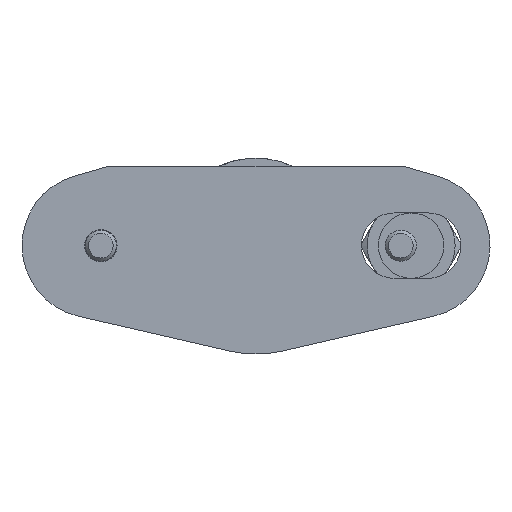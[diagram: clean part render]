
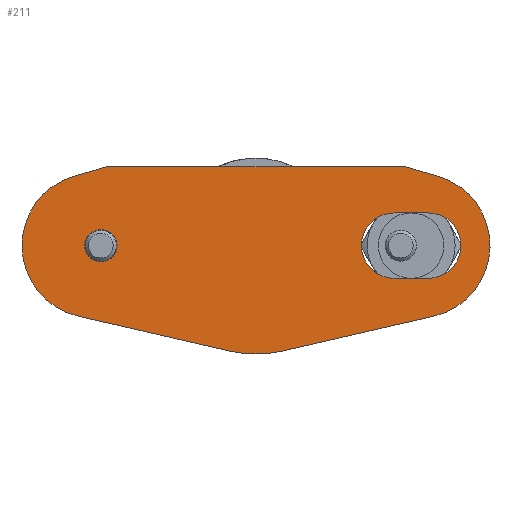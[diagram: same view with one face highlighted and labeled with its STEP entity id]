
A CAD part, front view. The second image highlights one B-rep face of the part: STEP entity #211.
In plain terms, the highlighted planar face has unit normal (0, -1, 0).
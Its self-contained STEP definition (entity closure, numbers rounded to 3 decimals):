
#211 = ADVANCED_FACE( '', ( #314, #315, #316 ), #317, .F. );
#314 = FACE_BOUND( '', #556, .T. );
#315 = FACE_BOUND( '', #557, .T. );
#316 = FACE_OUTER_BOUND( '', #558, .T. );
#317 = PLANE( '', #559 );
#556 = EDGE_LOOP( '', ( #790 ) );
#557 = EDGE_LOOP( '', ( #791, #792, #793, #794 ) );
#558 = EDGE_LOOP( '', ( #795, #796, #797, #798, #799, #800, #801, #802 ) );
#559 = AXIS2_PLACEMENT_3D( '', #803, #804, #805 );
#790 = ORIENTED_EDGE( '', *, *, #1420, .T. );
#791 = ORIENTED_EDGE( '', *, *, #1421, .T. );
#792 = ORIENTED_EDGE( '', *, *, #1422, .T. );
#793 = ORIENTED_EDGE( '', *, *, #1423, .T. );
#794 = ORIENTED_EDGE( '', *, *, #1424, .T. );
#795 = ORIENTED_EDGE( '', *, *, #1425, .F. );
#796 = ORIENTED_EDGE( '', *, *, #1426, .F. );
#797 = ORIENTED_EDGE( '', *, *, #1427, .F. );
#798 = ORIENTED_EDGE( '', *, *, #1428, .F. );
#799 = ORIENTED_EDGE( '', *, *, #1429, .F. );
#800 = ORIENTED_EDGE( '', *, *, #1430, .F. );
#801 = ORIENTED_EDGE( '', *, *, #1431, .F. );
#802 = ORIENTED_EDGE( '', *, *, #1432, .F. );
#803 = CARTESIAN_POINT( '', ( -31.25, 0., 0. ) );
#804 = DIRECTION( '', ( 0., 1., 0. ) );
#805 = DIRECTION( '', ( 0., 0., 1. ) );
#1420 = EDGE_CURVE( '', #1636, #1636, #1637, .T. );
#1421 = EDGE_CURVE( '', #1638, #1639, #1640, .T. );
#1422 = EDGE_CURVE( '', #1639, #1641, #1642, .T. );
#1423 = EDGE_CURVE( '', #1641, #1643, #1644, .T. );
#1424 = EDGE_CURVE( '', #1643, #1638, #1645, .T. );
#1425 = EDGE_CURVE( '', #1646, #1647, #1648, .T. );
#1426 = EDGE_CURVE( '', #1649, #1646, #1650, .T. );
#1427 = EDGE_CURVE( '', #1651, #1649, #1652, .T. );
#1428 = EDGE_CURVE( '', #1653, #1651, #1654, .T. );
#1429 = EDGE_CURVE( '', #1655, #1653, #1656, .T. );
#1430 = EDGE_CURVE( '', #1657, #1655, #1658, .T. );
#1431 = EDGE_CURVE( '', #1659, #1657, #1660, .T. );
#1432 = EDGE_CURVE( '', #1647, #1659, #1661, .T. );
#1636 = VERTEX_POINT( '', #1974 );
#1637 = CIRCLE( '', #1975, 3.125 );
#1638 = VERTEX_POINT( '', #1976 );
#1639 = VERTEX_POINT( '', #1977 );
#1640 = LINE( '', #1978, #1979 );
#1641 = VERTEX_POINT( '', #1980 );
#1642 = CIRCLE( '', #1981, 6.325 );
#1643 = VERTEX_POINT( '', #1982 );
#1644 = LINE( '', #1983, #1984 );
#1645 = CIRCLE( '', #1985, 6.325 );
#1646 = VERTEX_POINT( '', #1986 );
#1647 = VERTEX_POINT( '', #1987 );
#1648 = LINE( '', #1988, #1989 );
#1649 = VERTEX_POINT( '', #1990 );
#1650 = CIRCLE( '', #1991, 21. );
#1651 = VERTEX_POINT( '', #1992 );
#1652 = LINE( '', #1993, #1994 );
#1653 = VERTEX_POINT( '', #1995 );
#1654 = CIRCLE( '', #1996, 14. );
#1655 = VERTEX_POINT( '', #1997 );
#1656 = LINE( '', #1998, #1999 );
#1657 = VERTEX_POINT( '', #2000 );
#1658 = LINE( '', #2001, #2002 );
#1659 = VERTEX_POINT( '', #2003 );
#1660 = LINE( '', #2004, #2005 );
#1661 = CIRCLE( '', #2006, 14. );
#1974 = CARTESIAN_POINT( '', ( -26.875, 0., 0. ) );
#1975 = AXIS2_PLACEMENT_3D( '', #2552, #2553, #2554 );
#1976 = CARTESIAN_POINT( '', ( 33.3, 0., -6.325 ) );
#1977 = CARTESIAN_POINT( '', ( 26.7, 0., -6.325 ) );
#1978 = CARTESIAN_POINT( '', ( 33.3, 0., -6.325 ) );
#1979 = VECTOR( '', #2555, 1000. );
#1980 = CARTESIAN_POINT( '', ( 26.7, 0., 6.325 ) );
#1981 = AXIS2_PLACEMENT_3D( '', #2556, #2557, #2558 );
#1982 = CARTESIAN_POINT( '', ( 33.3, 0., 6.325 ) );
#1983 = CARTESIAN_POINT( '', ( 26.7, 0., 6.325 ) );
#1984 = VECTOR( '', #2559, 1000. );
#1985 = AXIS2_PLACEMENT_3D( '', #2560, #2561, #2562 );
#1986 = CARTESIAN_POINT( '', ( -4.704, 0., -20.466 ) );
#1987 = CARTESIAN_POINT( '', ( -34.386, 0., -13.644 ) );
#1988 = CARTESIAN_POINT( '', ( -4.704, 0., -20.466 ) );
#1989 = VECTOR( '', #2563, 1000. );
#1990 = CARTESIAN_POINT( '', ( 4.704, 0., -20.466 ) );
#1991 = AXIS2_PLACEMENT_3D( '', #2564, #2565, #2566 );
#1992 = CARTESIAN_POINT( '', ( 34.386, 0., -13.644 ) );
#1993 = CARTESIAN_POINT( '', ( 34.386, 0., -13.644 ) );
#1994 = VECTOR( '', #2567, 1000. );
#1995 = CARTESIAN_POINT( '', ( 35.109, 0., 13.458 ) );
#1996 = AXIS2_PLACEMENT_3D( '', #2568, #2569, #2570 );
#1997 = CARTESIAN_POINT( '', ( 28.684, 0., 15.3 ) );
#1998 = CARTESIAN_POINT( '', ( 28.684, 0., 15.3 ) );
#1999 = VECTOR( '', #2571, 1000. );
#2000 = CARTESIAN_POINT( '', ( -28.684, 0., 15.3 ) );
#2001 = CARTESIAN_POINT( '', ( -28.684, 0., 15.3 ) );
#2002 = VECTOR( '', #2572, 1000. );
#2003 = CARTESIAN_POINT( '', ( -35.109, 0., 13.458 ) );
#2004 = CARTESIAN_POINT( '', ( -35.109, 0., 13.458 ) );
#2005 = VECTOR( '', #2573, 1000. );
#2006 = AXIS2_PLACEMENT_3D( '', #2574, #2575, #2576 );
#2552 = CARTESIAN_POINT( '', ( -30., 0., 0. ) );
#2553 = DIRECTION( '', ( 0., 1., 0. ) );
#2554 = DIRECTION( '', ( 1., 0., 0. ) );
#2555 = DIRECTION( '', ( -1., 0., 0. ) );
#2556 = CARTESIAN_POINT( '', ( 26.7, 0., 0. ) );
#2557 = DIRECTION( '', ( 0., 1., 0. ) );
#2558 = DIRECTION( '', ( 1., 0., 0. ) );
#2559 = DIRECTION( '', ( 1., 0., 0. ) );
#2560 = CARTESIAN_POINT( '', ( 33.3, 0., 0. ) );
#2561 = DIRECTION( '', ( 0., 1., 0. ) );
#2562 = DIRECTION( '', ( 1., 0., 0. ) );
#2563 = DIRECTION( '', ( -0.975, 0., 0.224 ) );
#2564 = CARTESIAN_POINT( '', ( 0., 0., 0. ) );
#2565 = DIRECTION( '', ( 0., 1., 0. ) );
#2566 = DIRECTION( '', ( 1., 0., 0. ) );
#2567 = DIRECTION( '', ( -0.975, 0., -0.224 ) );
#2568 = CARTESIAN_POINT( '', ( 31.25, 0., 0. ) );
#2569 = DIRECTION( '', ( 0., 1., 0. ) );
#2570 = DIRECTION( '', ( 1., 0., 0. ) );
#2571 = DIRECTION( '', ( 0.961, 0., -0.276 ) );
#2572 = DIRECTION( '', ( 1., 0., 0. ) );
#2573 = DIRECTION( '', ( 0.961, 0., 0.276 ) );
#2574 = CARTESIAN_POINT( '', ( -31.25, 0., 0. ) );
#2575 = DIRECTION( '', ( 0., 1., 0. ) );
#2576 = DIRECTION( '', ( 1., 0., 0. ) );
